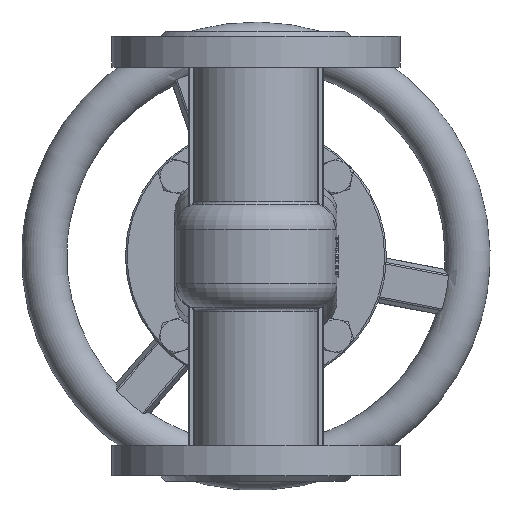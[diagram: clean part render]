
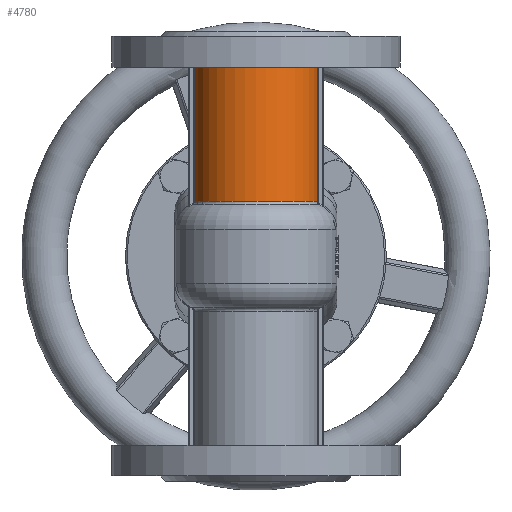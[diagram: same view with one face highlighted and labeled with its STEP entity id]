
A CAD part, front view. The second image highlights one B-rep face of the part: STEP entity #4780.
In plain terms, the highlighted cylindrical face has radius 35 mm (diameter 70 mm), a partial arc.
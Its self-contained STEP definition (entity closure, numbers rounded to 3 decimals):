
#4780=ADVANCED_FACE('',(#13564),#13566,.T.);
#13564=FACE_BOUND('',#13565,.T.);
#13565=EDGE_LOOP('',(#18641,#18642,#18643,#18644));
#13566=CYLINDRICAL_SURFACE('',#13567,35.);
#13567=AXIS2_PLACEMENT_3D('',#13568,#13569,#13570);
#13568=CARTESIAN_POINT('',(0.,0.,74.));
#13569=DIRECTION('',(0.,0.,1.));
#13570=DIRECTION('',(1.,0.,0.));
#18641=ORIENTED_EDGE('',*,*,#21047,.F.);
#18642=ORIENTED_EDGE('',*,*,#21048,.F.);
#18643=ORIENTED_EDGE('',*,*,#20875,.T.);
#18644=ORIENTED_EDGE('',*,*,#21049,.T.);
#20875=EDGE_CURVE('',#24390,#24392,#24394,.T.);
#21047=EDGE_CURVE('',#24650,#24651,#24652,.T.);
#21048=EDGE_CURVE('',#24390,#24650,#24653,.T.);
#21049=EDGE_CURVE('',#24392,#24651,#24654,.T.);
#24390=VERTEX_POINT('',#46674);
#24392=VERTEX_POINT('',#46691);
#24394=CIRCLE('',#46708,35.);
#24650=VERTEX_POINT('',#48298);
#24651=VERTEX_POINT('',#48299);
#24652=CIRCLE('',#48300,35.);
#24653=LINE('',#48304,#48305);
#24654=LINE('',#48307,#48308);
#46674=CARTESIAN_POINT('',(-34.1,-7.887,30.492));
#46691=CARTESIAN_POINT('',(34.1,-7.887,30.492));
#46708=AXIS2_PLACEMENT_3D('',#46709,#46710,#46711);
#46709=CARTESIAN_POINT('',(0.,0.,30.492));
#46710=DIRECTION('',(0.,0.,1.));
#46711=DIRECTION('',(-0.974,-0.225,0.));
#48298=CARTESIAN_POINT('',(-34.1,-7.887,105.));
#48299=CARTESIAN_POINT('',(34.1,-7.887,105.));
#48300=AXIS2_PLACEMENT_3D('',#48301,#48302,#48303);
#48301=CARTESIAN_POINT('',(0.,0.,105.));
#48302=DIRECTION('',(0.,0.,1.));
#48303=DIRECTION('',(-0.974,-0.225,0.));
#48304=CARTESIAN_POINT('',(-34.1,-7.887,30.492));
#48305=VECTOR('',#48306,1.);
#48306=DIRECTION('',(0.,0.,1.));
#48307=CARTESIAN_POINT('',(34.1,-7.887,30.492));
#48308=VECTOR('',#48309,1.);
#48309=DIRECTION('',(0.,0.,1.));
